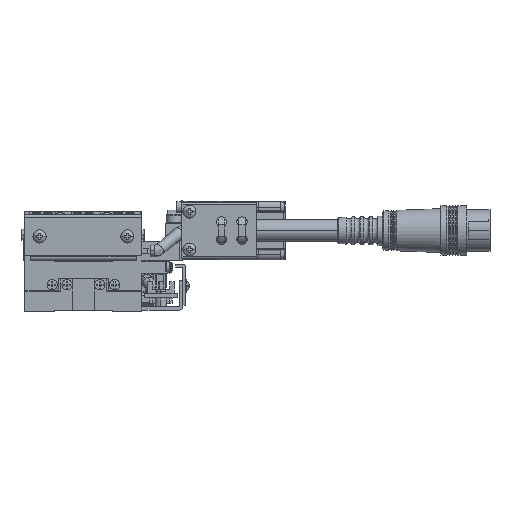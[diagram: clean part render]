
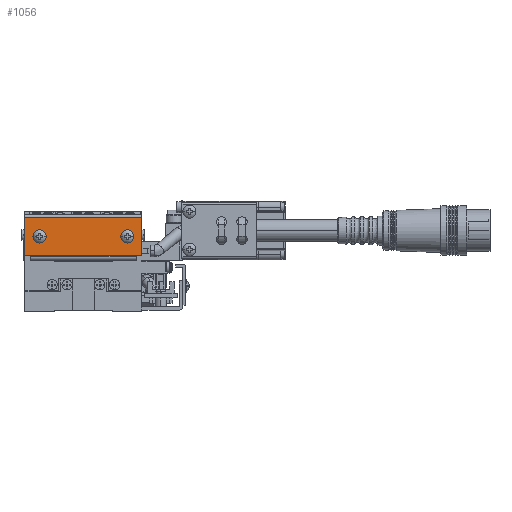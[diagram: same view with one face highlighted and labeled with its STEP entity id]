
A CAD part, left-side view. The second image highlights one B-rep face of the part: STEP entity #1056.
In plain terms, the highlighted planar face has unit normal (-1, 0, 0).
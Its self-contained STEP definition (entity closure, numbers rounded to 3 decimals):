
#1056=ADVANCED_FACE('',(#11320,#11321,#11322),#11319,.T.);
#11319=PLANE('',#41575);
#11320=FACE_OUTER_BOUND('',#41576,.T.);
#11321=FACE_BOUND('',#41577,.T.);
#11322=FACE_BOUND('',#41578,.T.);
#41572=CARTESIAN_POINT('',(-35.,24.,33.3));
#41573=DIRECTION('',(-1.,0.,0.));
#41574=DIRECTION('',(0.,0.,-1.));
#41575=AXIS2_PLACEMENT_3D('',#41572,#41573,#41574);
#41576=EDGE_LOOP('',(#62927,#62928,#62929,#62930));
#41577=EDGE_LOOP('',(#62931,#62932));
#41578=EDGE_LOOP('',(#62933,#62934,#62935));
#62927=ORIENTED_EDGE('',*,*,#77828,.F.);
#62928=ORIENTED_EDGE('',*,*,#77819,.T.);
#62929=ORIENTED_EDGE('',*,*,#77829,.T.);
#62930=ORIENTED_EDGE('',*,*,#77830,.T.);
#62931=ORIENTED_EDGE('',*,*,#77831,.F.);
#62932=ORIENTED_EDGE('',*,*,#77832,.F.);
#62933=ORIENTED_EDGE('',*,*,#77833,.T.);
#62934=ORIENTED_EDGE('',*,*,#77834,.T.);
#62935=ORIENTED_EDGE('',*,*,#77835,.T.);
#77819=EDGE_CURVE('',#100575,#100567,#100576,.T.);
#77828=EDGE_CURVE('',#100575,#100635,#100636,.T.);
#77829=EDGE_CURVE('',#100567,#100642,#100643,.T.);
#77830=EDGE_CURVE('',#100642,#100635,#100649,.T.);
#77831=EDGE_CURVE('',#100655,#100656,#100657,.T.);
#77832=EDGE_CURVE('',#100656,#100655,#100663,.T.);
#77833=EDGE_CURVE('',#100669,#100670,#100671,.T.);
#77834=EDGE_CURVE('',#100670,#100677,#100678,.T.);
#77835=EDGE_CURVE('',#100677,#100669,#100684,.T.);
#100567=VERTEX_POINT('',#148140);
#100575=VERTEX_POINT('',#148146);
#100576=LINE('',#148147,#148148);
#100635=VERTEX_POINT('',#148180);
#100636=LINE('',#148181,#148182);
#100642=VERTEX_POINT('',#148184);
#100643=LINE('',#148185,#148186);
#100649=LINE('',#148188,#148189);
#100655=VERTEX_POINT('',#148191);
#100656=VERTEX_POINT('',#148192);
#100657=CIRCLE('',#148196,2.25);
#100663=CIRCLE('',#148200,2.25);
#100669=VERTEX_POINT('',#148201);
#100670=VERTEX_POINT('',#148202);
#100671=CIRCLE('',#148206,2.25);
#100677=VERTEX_POINT('',#148207);
#100678=CIRCLE('',#148211,2.25);
#100684=CIRCLE('',#148215,2.25);
#148140=CARTESIAN_POINT('',(-35.,20.,32.));
#148146=CARTESIAN_POINT('',(-35.,-20.,32.));
#148147=CARTESIAN_POINT('',(-35.,-20.,32.));
#148148=VECTOR('',#148149,40.);
#148149=DIRECTION('',(0.,1.,0.));
#148180=CARTESIAN_POINT('',(-35.,-20.,19.));
#148181=CARTESIAN_POINT('',(-35.,-20.,32.));
#148182=VECTOR('',#148183,13.);
#148183=DIRECTION('',(0.,0.,-1.));
#148184=CARTESIAN_POINT('',(-35.,20.,19.));
#148185=CARTESIAN_POINT('',(-35.,20.,32.));
#148186=VECTOR('',#148187,13.);
#148187=DIRECTION('',(0.,0.,-1.));
#148188=CARTESIAN_POINT('',(-35.,20.,19.));
#148189=VECTOR('',#148190,40.);
#148190=DIRECTION('',(0.,-1.,0.));
#148191=CARTESIAN_POINT('',(-35.,12.75,25.5));
#148192=CARTESIAN_POINT('',(-35.,17.25,25.5));
#148193=CARTESIAN_POINT('',(-35.,15.,25.5));
#148194=DIRECTION('',(-1.,0.,0.));
#148195=DIRECTION('',(0.,1.,0.));
#148196=AXIS2_PLACEMENT_3D('',#148193,#148194,#148195);
#148197=CARTESIAN_POINT('',(-35.,15.,25.5));
#148198=DIRECTION('',(-1.,0.,0.));
#148199=DIRECTION('',(0.,1.,0.));
#148200=AXIS2_PLACEMENT_3D('',#148197,#148198,#148199);
#148201=CARTESIAN_POINT('',(-35.,-15.,27.75));
#148202=CARTESIAN_POINT('',(-35.,-17.25,25.5));
#148203=CARTESIAN_POINT('',(-35.,-15.,25.5));
#148204=DIRECTION('',(1.,0.,0.));
#148205=DIRECTION('',(0.,0.,1.));
#148206=AXIS2_PLACEMENT_3D('',#148203,#148204,#148205);
#148207=CARTESIAN_POINT('',(-35.,-12.75,25.5));
#148208=CARTESIAN_POINT('',(-35.,-15.,25.5));
#148209=DIRECTION('',(1.,0.,0.));
#148210=DIRECTION('',(0.,0.,1.));
#148211=AXIS2_PLACEMENT_3D('',#148208,#148209,#148210);
#148212=CARTESIAN_POINT('',(-35.,-15.,25.5));
#148213=DIRECTION('',(1.,0.,0.));
#148214=DIRECTION('',(0.,0.,1.));
#148215=AXIS2_PLACEMENT_3D('',#148212,#148213,#148214);
